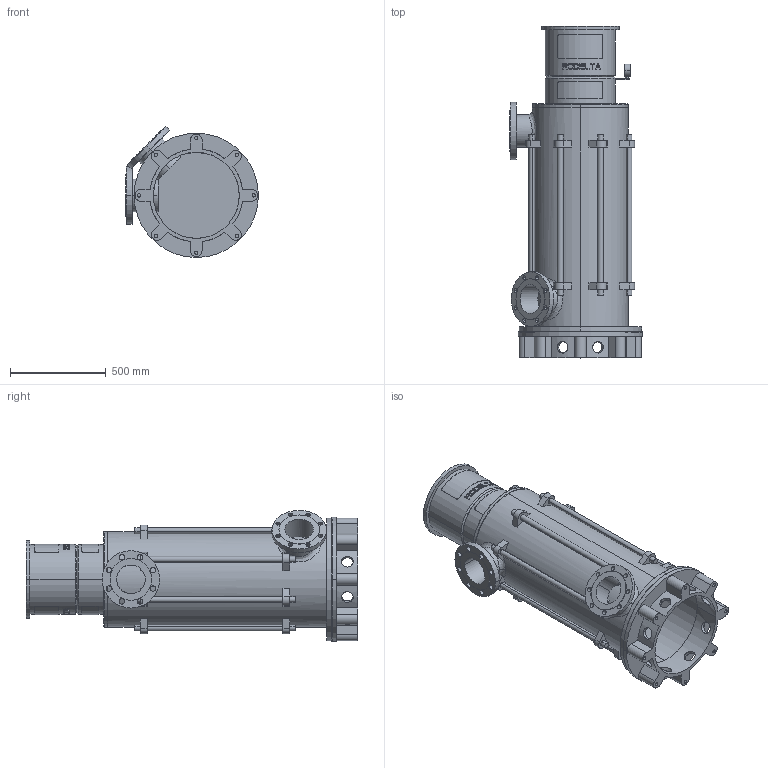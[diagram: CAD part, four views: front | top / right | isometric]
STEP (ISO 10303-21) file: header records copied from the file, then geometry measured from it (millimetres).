
FILE_DESCRIPTION((''),'2;1');
FILE_NAME('LS6_5TR_0GR_PN25_TOT_30KW','2025-10-24T12:23:58',('Lyritlocal'),(''),'CREO PARAMETRIC BY PTC INC, 2022014','CREO PARAMETRIC BY PTC INC, 2022014','');
FILE_SCHEMA(('CONFIG_CONTROL_DESIGN'));
Length unit declared in the file: millimetre
Products named in the file (1): LS6_5TR_0GR_PN25_TOT_30KW
Bounding box: 695 x 1735 x 685.27 mm (x, y, z)
Volume: 52844179.7 mm3; surface area: 7339795 mm2
Topology: 3 solids, 11 shells, 732 faces, 1889 edges, 1258 vertices
Faces by surface type: plane 438, cylinder 274, cone 12, bspline 8
Entity records: 24200 total; most frequent: CARTESIAN_POINT 6380, ORIENTED_EDGE 3746, DIRECTION 3535, EDGE_CURVE 1889, AXIS2_PLACEMENT_3D 1341, VERTEX_POINT 1258, EDGE_LOOP 895, VECTOR 853
